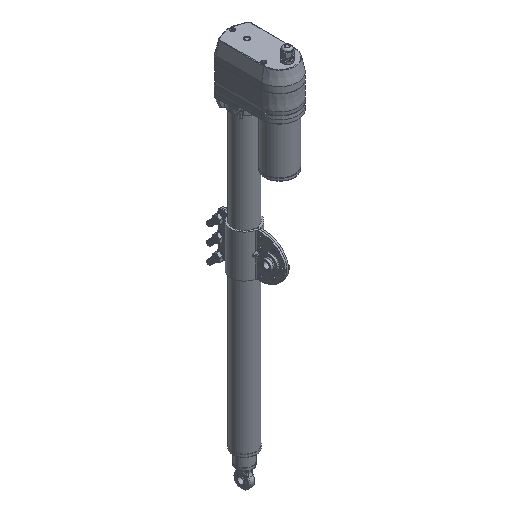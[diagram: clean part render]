
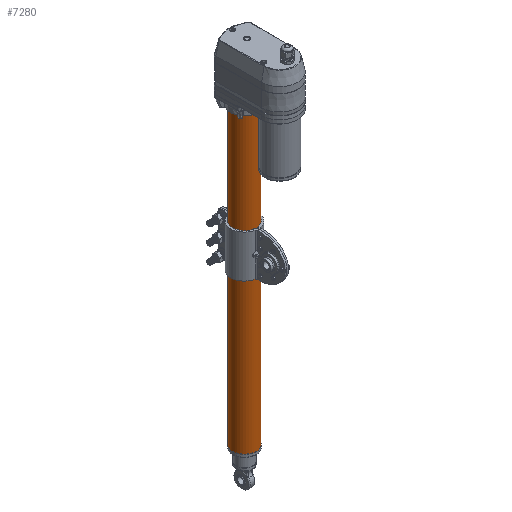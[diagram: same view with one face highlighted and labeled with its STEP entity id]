
A CAD part, isometric view. The second image highlights one B-rep face of the part: STEP entity #7280.
In plain terms, the highlighted cylindrical face has radius 25.4 mm (diameter 50.8 mm), a full revolution.
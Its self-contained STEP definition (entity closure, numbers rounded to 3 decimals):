
#1678 = CARTESIAN_POINT ( 'NONE',  ( 25.4, 0., -83.664 ) ) ;
#2067 = CYLINDRICAL_SURFACE ( 'NONE', #20643, 25.4 ) ;
#4215 = FACE_OUTER_BOUND ( 'NONE', #13441, .T. ) ;
#4919 = DIRECTION ( 'NONE',  ( 1., 0., 0. ) ) ;
#5777 = EDGE_CURVE ( 'NONE', #19962, #19962, #43079, .T. ) ;
#7183 = CARTESIAN_POINT ( 'NONE',  ( 0., 0., -707.75 ) ) ;
#7280 = ADVANCED_FACE ( 'NONE', ( #4215, #20356 ), #2067, .T. ) ;
#10645 = DIRECTION ( 'NONE',  ( 1., 0., 0. ) ) ;
#12641 = DIRECTION ( 'NONE',  ( 0., 0., 1. ) ) ;
#13441 = EDGE_LOOP ( 'NONE', ( #37871 ) ) ;
#14327 = EDGE_LOOP ( 'NONE', ( #29671 ) ) ;
#19962 = VERTEX_POINT ( 'NONE', #38529 ) ;
#20356 = FACE_OUTER_BOUND ( 'NONE', #14327, .T. ) ;
#20643 = AXIS2_PLACEMENT_3D ( 'NONE', #28997, #39371, #4919 ) ;
#24954 = CIRCLE ( 'NONE', #25732, 25.4 ) ;
#25732 = AXIS2_PLACEMENT_3D ( 'NONE', #33266, #12641, #36727 ) ;
#28997 = CARTESIAN_POINT ( 'NONE',  ( 0., 0., 0. ) ) ;
#29089 = VERTEX_POINT ( 'NONE', #1678 ) ;
#29671 = ORIENTED_EDGE ( 'NONE', *, *, #5777, .T. ) ;
#29896 = EDGE_CURVE ( 'NONE', #29089, #29089, #24954, .T. ) ;
#31266 = DIRECTION ( 'NONE',  ( 0., 0., 1. ) ) ;
#33266 = CARTESIAN_POINT ( 'NONE',  ( 0., 0., -83.664 ) ) ;
#36727 = DIRECTION ( 'NONE',  ( 1., 0., 0. ) ) ;
#37871 = ORIENTED_EDGE ( 'NONE', *, *, #29896, .F. ) ;
#38529 = CARTESIAN_POINT ( 'NONE',  ( 25.4, 0., -707.75 ) ) ;
#38550 = AXIS2_PLACEMENT_3D ( 'NONE', #7183, #31266, #10645 ) ;
#39371 = DIRECTION ( 'NONE',  ( 0., 0., 1. ) ) ;
#43079 = CIRCLE ( 'NONE', #38550, 25.4 ) ;
